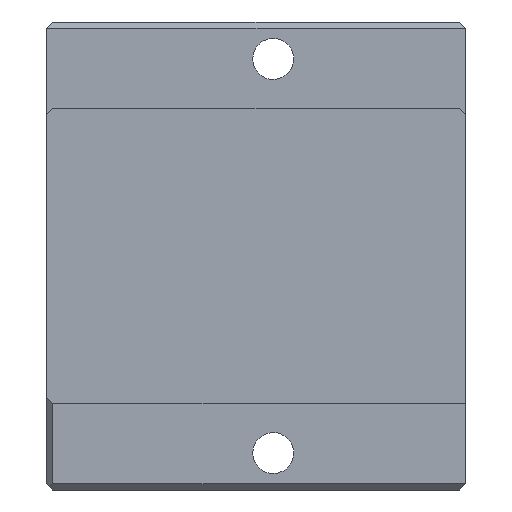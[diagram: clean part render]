
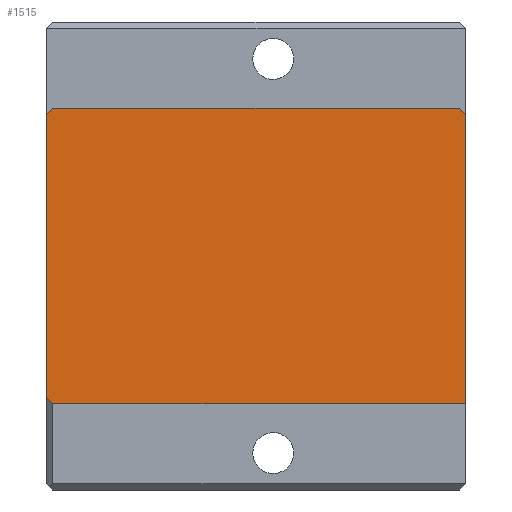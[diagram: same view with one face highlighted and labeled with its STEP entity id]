
A CAD part, front view. The second image highlights one B-rep face of the part: STEP entity #1515.
In plain terms, the highlighted planar face has unit normal (0, -1, 0).
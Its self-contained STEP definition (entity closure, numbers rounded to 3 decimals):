
#1494=AXIS2_PLACEMENT_3D('Plane Axis2P3D',#1491,#1492,#1493) ;
#179=CARTESIAN_POINT('Vertex',(34.,-27.5,23.)) ;
#182=CARTESIAN_POINT('Line Origine',(34.,-27.5,-0.5)) ;
#186=CARTESIAN_POINT('Vertex',(34.,-27.5,-24.)) ;
#221=CARTESIAN_POINT('Vertex',(33.,-27.5,24.)) ;
#228=CARTESIAN_POINT('Vertex',(-33.,-27.5,24.)) ;
#231=CARTESIAN_POINT('Line Origine',(0.,-27.5,24.)) ;
#316=CARTESIAN_POINT('Vertex',(-34.,-27.5,-23.)) ;
#319=CARTESIAN_POINT('Line Origine',(-34.,-27.5,0.)) ;
#323=CARTESIAN_POINT('Vertex',(-34.,-27.5,23.)) ;
#354=CARTESIAN_POINT('Line Origine',(0.5,-27.5,-24.)) ;
#358=CARTESIAN_POINT('Vertex',(-33.,-27.5,-24.)) ;
#536=CARTESIAN_POINT('Line Origine',(-33.5,-27.5,-23.5)) ;
#1491=CARTESIAN_POINT('Axis2P3D Location',(34.,-27.5,0.)) ;
#1496=CARTESIAN_POINT('Line Origine',(33.5,-27.5,23.5)) ;
#1501=CARTESIAN_POINT('Line Origine',(-33.5,-27.5,23.5)) ;
#183=DIRECTION('Vector Direction',(0.,0.,1.)) ;
#232=DIRECTION('Vector Direction',(-1.,0.,0.)) ;
#320=DIRECTION('Vector Direction',(0.,0.,1.)) ;
#355=DIRECTION('Vector Direction',(-1.,0.,0.)) ;
#537=DIRECTION('Vector Direction',(0.707,0.,-0.707)) ;
#1492=DIRECTION('Axis2P3D Direction',(0.,1.,-0.)) ;
#1493=DIRECTION('Axis2P3D XDirection',(-1.,0.,0.)) ;
#1497=DIRECTION('Vector Direction',(-0.707,0.,0.707)) ;
#1502=DIRECTION('Vector Direction',(-0.707,0.,-0.707)) ;
#184=VECTOR('Line Direction',#183,1.) ;
#233=VECTOR('Line Direction',#232,1.) ;
#321=VECTOR('Line Direction',#320,1.) ;
#356=VECTOR('Line Direction',#355,1.) ;
#538=VECTOR('Line Direction',#537,1.) ;
#1498=VECTOR('Line Direction',#1497,1.) ;
#1503=VECTOR('Line Direction',#1502,1.) ;
#1507=ORIENTED_EDGE('',*,*,#1500,.F.) ;
#1508=ORIENTED_EDGE('',*,*,#235,.T.) ;
#1509=ORIENTED_EDGE('',*,*,#1505,.F.) ;
#1510=ORIENTED_EDGE('',*,*,#325,.F.) ;
#1511=ORIENTED_EDGE('',*,*,#540,.F.) ;
#1512=ORIENTED_EDGE('',*,*,#360,.F.) ;
#1513=ORIENTED_EDGE('',*,*,#188,.T.) ;
#1515=ADVANCED_FACE('\X2\96F64EF651E04F554F53\X0\',(#1514),#1495,.F.) ;
#188=EDGE_CURVE('',#187,#180,#185,.T.) ;
#235=EDGE_CURVE('',#222,#229,#234,.T.) ;
#325=EDGE_CURVE('',#317,#324,#322,.T.) ;
#360=EDGE_CURVE('',#187,#359,#357,.T.) ;
#540=EDGE_CURVE('',#359,#317,#539,.F.) ;
#1500=EDGE_CURVE('',#222,#180,#1499,.F.) ;
#1505=EDGE_CURVE('',#324,#229,#1504,.F.) ;
#1506=EDGE_LOOP('',(#1507,#1508,#1509,#1510,#1511,#1512,#1513)) ;
#1514=FACE_OUTER_BOUND('',#1506,.T.) ;
#185=LINE('Line',#182,#184) ;
#234=LINE('Line',#231,#233) ;
#322=LINE('Line',#319,#321) ;
#357=LINE('Line',#354,#356) ;
#539=LINE('Line',#536,#538) ;
#1499=LINE('Line',#1496,#1498) ;
#1504=LINE('Line',#1501,#1503) ;
#1495=PLANE('',#1494) ;
#180=VERTEX_POINT('',#179) ;
#187=VERTEX_POINT('',#186) ;
#222=VERTEX_POINT('',#221) ;
#229=VERTEX_POINT('',#228) ;
#317=VERTEX_POINT('',#316) ;
#324=VERTEX_POINT('',#323) ;
#359=VERTEX_POINT('',#358) ;
